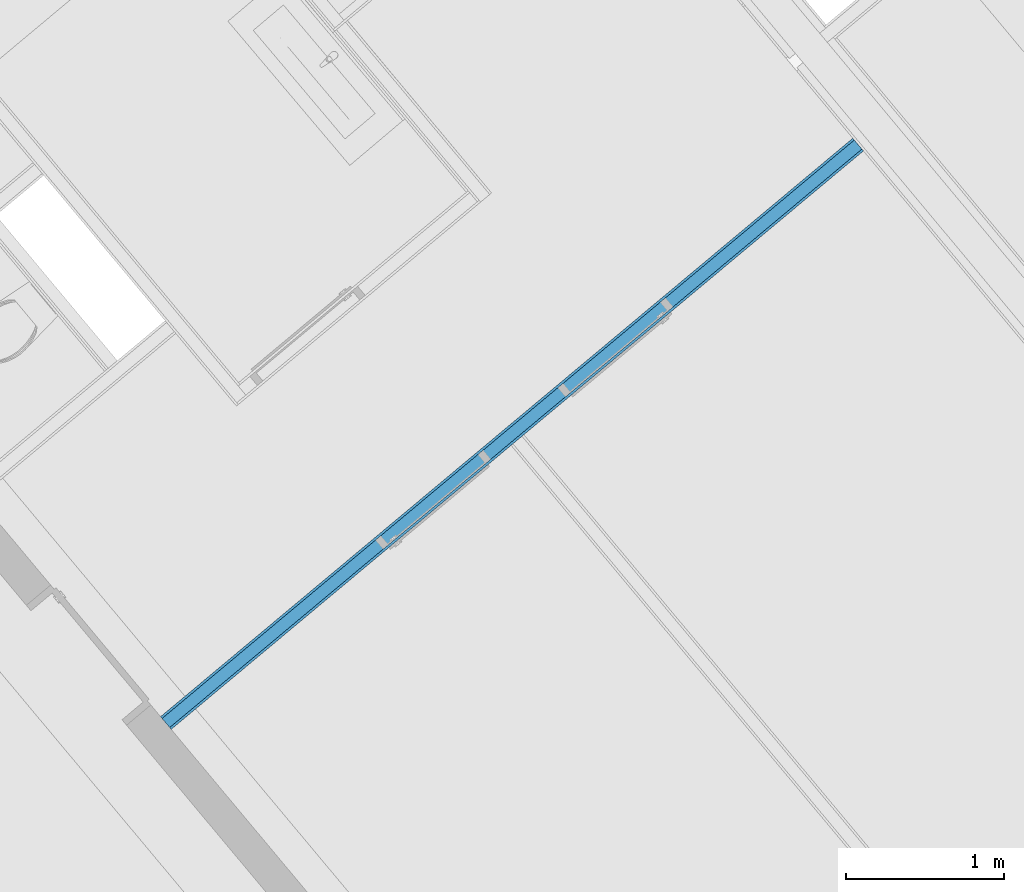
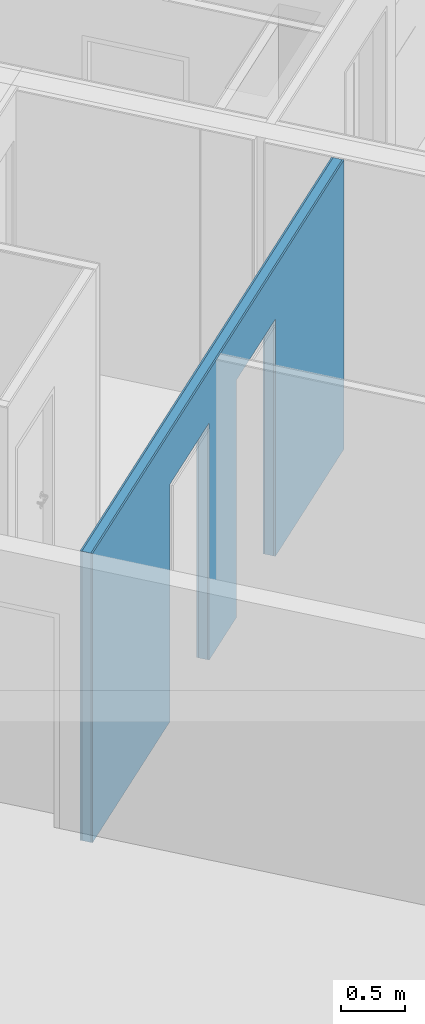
# One storey, part 12 of 67: 3 building element parts, 2 openings, 1 element without a shape of its own.
"""IFC4 building model written with IfcOpenShell, lengths in metres."""

from ifc_helpers import new_model, entity, si_unit, converted_unit, derived_unit, direction, frame, origin_with_axes, place, context, subcontext, project, spatial, polygons, material, type_object, element, aggregate, save


model = new_model("IFC4")

# Units and contexts
model_context = context("Model", 3, precision=1e-05, world=origin_with_axes(), true_north=direction((0.0, 1.0)))
body_context = subcontext(model_context, "Body", "Model", "MODEL_VIEW")
ifc_project = project(units=[si_unit("LENGTHUNIT", "METRE"), si_unit("AREAUNIT", "SQUARE_METRE"), si_unit("VOLUMEUNIT", "CUBIC_METRE"), converted_unit("PLANEANGLEUNIT", "DEGREE", entity("IfcPlaneAngleMeasure", 0.0174532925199), si_unit("PLANEANGLEUNIT", "RADIAN"), dimensions=[0, 0, 0, 0, 0, 0, 0]), converted_unit("TIMEUNIT", "Year", entity("IfcTimeMeasure", 31556926.0), si_unit("TIMEUNIT", "SECOND"), dimensions=[0, 0, 1, 0, 0, 0, 0]), si_unit("MASSUNIT", "GRAM", prefix="KILO"), si_unit("THERMODYNAMICTEMPERATUREUNIT", "DEGREE_CELSIUS"), si_unit("LUMINOUSINTENSITYUNIT", "LUMEN"), si_unit("ENERGYUNIT", "JOULE", prefix="MEGA"), derived_unit("THERMALCONDUCTANCEUNIT", [(si_unit("POWERUNIT", "WATT"), 1), (si_unit("LENGTHUNIT", "METRE"), -1), (si_unit("THERMODYNAMICTEMPERATUREUNIT", "KELVIN"), -1)]), derived_unit("SPECIFICHEATCAPACITYUNIT", [(si_unit("ENERGYUNIT", "JOULE"), 1), (si_unit("MASSUNIT", "GRAM", prefix="KILO"), -1), (si_unit("THERMODYNAMICTEMPERATUREUNIT", "KELVIN"), -1)]), derived_unit("MASSDENSITYUNIT", [(si_unit("MASSUNIT", "GRAM", prefix="KILO"), 1), (si_unit("VOLUMEUNIT", "CUBIC_METRE"), -1)])], contexts=[model_context])

# Site, building, storey
site_placement = place(None, frame((-0.00153261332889, -0.00661245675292, 0.0), z_axis=(0.0, 0.0, 1.0), x_axis=(1.0, 0.0, 0.0)))
site = spatial("IfcSite", under=ifc_project, at=site_placement, Name="Site", CompositionType="ELEMENT")
building_placement = place(site_placement, origin_with_axes())
building = spatial("IfcBuilding", under=site, at=building_placement, Name="Building", CompositionType="ELEMENT")
storey_placement = place(building_placement, frame((0.0, 0.0, -0.22), z_axis=(0.0, 0.0, 1.0), x_axis=(1.0, 0.0, 0.0)))
storey = spatial("IfcBuildingStorey", under=building, at=storey_placement, Name="EG", CompositionType="ELEMENT", Elevation=-0.22)

# Wall, openings, building element parts
wall_type = type_object("IfcWallType", Name="IW LB 01 Leichtbautrennwand einfach 10,5 cm 105", PredefinedType="NOTDEFINED")
wall_placement = place(storey_placement, frame((4.97586165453, 20.0436517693, 0.0), z_axis=(0.0, 0.0, 1.0), x_axis=(-0.767365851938, -0.641209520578, 0.0)))
wall = element("IfcWall", 1, at=wall_placement, inside=storey, type_object=wall_type, Name="Wand-012", PredefinedType="NOTDEFINED")
opening_1_placement = place(wall_placement, frame((3.50803466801, 0.0, 0.22), z_axis=(0.0, 0.0, 1.0), x_axis=(1.0, 0.0, 0.0)))
element("IfcOpeningElement", 2, at=opening_1_placement, cuts=wall, Name="Tür-016", context=body_context, identifier="Reference", shape_type="Tessellation", body=[
    polygons([(-0.445, -2.91765554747, 2.045), (-0.445, -2.91765554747, -0.22), (0.445, -2.91765554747, -0.22), (0.445, -2.91765554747, 2.045), (-0.445, 2.81265554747, 2.045), (-0.445, 2.81265554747, -0.22), (0.445, 2.81265554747, -0.22), (0.445, 2.81265554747, 2.045)], [[[1, 2, 3, 4]], [[5, 6, 2, 1]], [[6, 7, 3, 2]], [[7, 8, 4, 3]], [[8, 5, 1, 4]], [[7, 6, 5, 8]]], closed=True),
])
opening_2_placement = place(wall_placement, frame((2.00304118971, 0.0, 0.22), z_axis=(0.0, 0.0, 1.0), x_axis=(1.0, 0.0, 0.0)))
element("IfcOpeningElement", 3, at=opening_2_placement, cuts=wall, Name="Tür-016", context=body_context, identifier="Reference", shape_type="Tessellation", body=[
    polygons([(-0.445, -2.91765554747, 2.045), (-0.445, -2.91765554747, -0.22), (0.445, -2.91765554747, -0.22), (0.445, -2.91765554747, 2.045), (-0.445, 2.81265554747, 2.045), (-0.445, 2.81265554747, -0.22), (0.445, 2.81265554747, -0.22), (0.445, 2.81265554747, 2.045)], [[[1, 2, 3, 4]], [[5, 6, 2, 1]], [[6, 7, 3, 2]], [[7, 8, 4, 3]], [[8, 5, 1, 4]], [[7, 6, 5, 8]]], closed=True),
])
ifc_material_1 = material(Name="Gipskarton")
building_element_part_1_placement = place(wall_placement, origin_with_axes())
building_element_part_1 = element("IfcBuildingElementPart", 4, at=building_element_part_1_placement, material=ifc_material_1, Name="Gipskarton", PredefinedType="NOTDEFINED", context=body_context, shape_type="Tessellation", body=[
    polygons([(2.44804118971, 5.07949771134e-09, 0.22), (2.44804118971, 9.54859658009e-09, 2.265), (1.55804118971, 9.54859658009e-09, 2.265), (1.55804118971, 2.1756141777e-08, 0.22), (1.55804118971, 2.17561400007e-08, 0.0), (0.0, 0.0, 0.0), (0.0, 0.0, 2.76), (5.71425587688, 0.0, 2.76), (5.71425587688, 0.0, 0.0), (3.95303466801, 9.54859658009e-09, 0.0), (3.95303466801, 9.54859302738e-09, 0.22), (3.95303466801, -2.80242105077e-08, 2.265), (3.06303466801, -2.80242105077e-08, 2.265), (3.06303466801, -2.80242105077e-08, 0.22), (3.06303469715, -2.80242105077e-08, 0.0), (2.44804118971, 5.07949948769e-09, 0.0), (2.44804118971, -0.015, 0.22), (2.44804118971, -0.015, 2.265), (1.55804118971, -0.015, 2.265), (1.55804118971, -0.015, 0.22), (1.55804118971, -0.015, 0.0), (0.0, -0.015, 0.0), (0.0, -0.015, 2.76), (5.71425587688, -0.015, 2.76), (5.71425587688, -0.015, 0.0), (3.95303466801, -0.015, 0.0), (3.95303466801, -0.015, 0.22), (3.95303466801, -0.015, 2.265), (3.06303466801, -0.015, 2.265), (3.06303466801, -0.015, 0.22), (3.06303469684, -0.015, 0.0), (2.44804118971, -0.015, 0.0)], [[[1, 2, 3, 4, 5, 6, 7, 8, 9, 10, 11, 12, 13, 14, 15, 16]], [[2, 1, 17, 18]], [[3, 2, 18, 19]], [[4, 3, 19, 20]], [[4, 20, 21, 5]], [[22, 6, 5, 21]], [[6, 22, 23, 7]], [[23, 24, 8, 7]], [[25, 9, 8, 24]], [[9, 25, 26, 10]], [[11, 10, 26, 27]], [[11, 27, 28, 12]], [[12, 28, 29, 13]], [[13, 29, 30, 14]], [[30, 31, 15, 14]], [[32, 16, 15, 31]], [[17, 1, 16, 32]], [[18, 17, 32, 31, 30, 29, 28, 27, 26, 25, 24, 23, 22, 21, 20, 19]]], closed=True),
])
ifc_material_2 = material(Name="Mineralwolle weich")
building_element_part_2_placement = place(wall_placement, origin_with_axes())
building_element_part_2 = element("IfcBuildingElementPart", 5, at=building_element_part_2_placement, material=ifc_material_2, Name="Mineralwolle weich", PredefinedType="NOTDEFINED", context=body_context, shape_type="Tessellation", body=[
    polygons([(2.44804118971, -0.015, 0.22), (2.44804118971, -0.015, 2.265), (1.55804118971, -0.015, 2.265), (1.55804118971, -0.015, 0.22), (1.55804118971, -0.015, 0.0), (0.0, -0.015, 0.0), (0.0, -0.015, 2.76), (5.71425587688, -0.015, 2.76), (5.71425587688, -0.015, 0.0), (3.95303466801, -0.015, 0.0), (3.95303466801, -0.015, 0.22), (3.95303466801, -0.015, 2.265), (3.06303466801, -0.015, 2.265), (3.06303466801, -0.015, 0.22), (3.06303469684, -0.015, 0.0), (2.44804118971, -0.015, 0.0), (2.44804118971, -0.09, 0.22), (2.44804118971, -0.09, 2.265), (1.55804118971, -0.09, 2.265), (1.55804118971, -0.09, 0.22), (1.55804118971, -0.09, 0.0), (0.0, -0.09, 0.0), (0.0, -0.09, 2.76), (5.71425587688, -0.09, 2.76), (5.71425587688, -0.09, 0.0), (3.95303466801, -0.09, 0.0), (3.95303466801, -0.09, 0.22), (3.95303466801, -0.09, 2.265), (3.06303466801, -0.09, 2.265), (3.06303466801, -0.09, 0.22), (3.0630346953, -0.09, 0.0), (2.44804118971, -0.09, 0.0)], [[[1, 2, 3, 4, 5, 6, 7, 8, 9, 10, 11, 12, 13, 14, 15, 16]], [[2, 1, 17, 18]], [[3, 2, 18, 19]], [[4, 3, 19, 20]], [[4, 20, 21, 5]], [[22, 6, 5, 21]], [[6, 22, 23, 7]], [[23, 24, 8, 7]], [[25, 9, 8, 24]], [[9, 25, 26, 10]], [[11, 10, 26, 27]], [[11, 27, 28, 12]], [[12, 28, 29, 13]], [[13, 29, 30, 14]], [[30, 31, 15, 14]], [[32, 16, 15, 31]], [[17, 1, 16, 32]], [[18, 17, 32, 31, 30, 29, 28, 27, 26, 25, 24, 23, 22, 21, 20, 19]]], closed=True),
])
building_element_part_3_placement = place(wall_placement, origin_with_axes())
building_element_part_3 = element("IfcBuildingElementPart", 6, at=building_element_part_3_placement, material=ifc_material_1, Name="Gipskarton", PredefinedType="NOTDEFINED", context=body_context, shape_type="Tessellation", body=[
    polygons([(2.44804118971, -0.09, 0.22), (2.44804118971, -0.09, 2.265), (1.55804118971, -0.09, 2.265), (1.55804118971, -0.09, 0.22), (1.55804118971, -0.09, 0.0), (0.0, -0.09, 0.0), (0.0, -0.09, 2.76), (5.71425587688, -0.09, 2.76), (5.71425587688, -0.09, 0.0), (3.95303466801, -0.09, 0.0), (3.95303466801, -0.09, 0.22), (3.95303466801, -0.09, 2.265), (3.06303466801, -0.09, 2.265), (3.06303466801, -0.09, 0.22), (3.0630346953, -0.09, 0.0), (2.44804118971, -0.09, 0.0), (2.44804118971, -0.105, 0.22), (2.44804118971, -0.105, 2.265), (1.55804118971, -0.105, 2.265), (1.55804118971, -0.105, 0.22), (1.55804118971, -0.105, 0.0), (0.0, -0.105, 0.0), (0.0, -0.105, 2.76), (5.71425587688, -0.105, 2.76), (5.71425587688, -0.105, 0.0), (3.95303466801, -0.105, 0.0), (3.95303466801, -0.105, 0.22), (3.95303466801, -0.105, 2.265), (3.06303466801, -0.105, 2.265), (3.06303466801, -0.105, 0.22), (3.06303469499, -0.105, 0.0), (2.44804118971, -0.105, 0.0)], [[[1, 2, 3, 4, 5, 6, 7, 8, 9, 10, 11, 12, 13, 14, 15, 16]], [[2, 1, 17, 18]], [[3, 2, 18, 19]], [[4, 3, 19, 20]], [[4, 20, 21, 5]], [[22, 6, 5, 21]], [[6, 22, 23, 7]], [[23, 24, 8, 7]], [[25, 9, 8, 24]], [[9, 25, 26, 10]], [[11, 10, 26, 27]], [[11, 27, 28, 12]], [[12, 28, 29, 13]], [[13, 29, 30, 14]], [[30, 31, 15, 14]], [[32, 16, 15, 31]], [[17, 1, 16, 32]], [[18, 17, 32, 31, 30, 29, 28, 27, 26, 25, 24, 23, 22, 21, 20, 19]]], closed=True),
])
aggregate(wall, [building_element_part_1, building_element_part_2, building_element_part_3])

save(model, "model.ifc")
